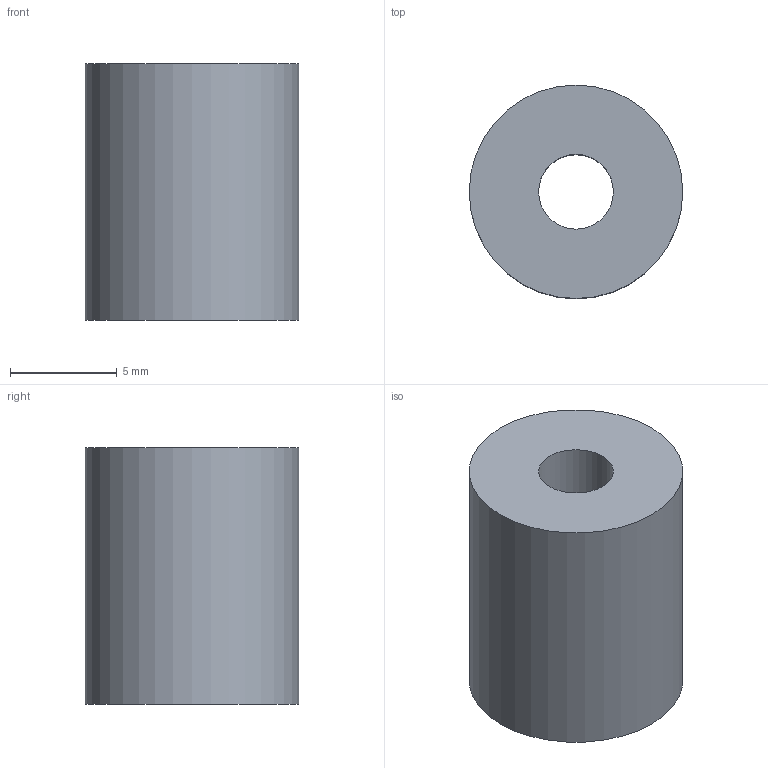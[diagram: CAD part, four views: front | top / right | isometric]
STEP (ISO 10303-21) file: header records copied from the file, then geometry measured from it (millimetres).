
FILE_DESCRIPTION(('Open CASCADE Model'),'2;1');
FILE_NAME('Open CASCADE Shape Model','2026-10-12T22:10:18',('Author'),( 'Open CASCADE'),'Open CASCADE STEP processor 7.9','Open CASCADE 7.9' ,'Unknown');
FILE_SCHEMA(('AUTOMOTIVE_DESIGN { 1 0 10303 214 1 1 1 1 }'));
Length unit declared in the file: millimetre
Products named in the file (1): Open CASCADE STEP translator 7.9 27
Bounding box: 10 x 10 x 12 mm (x, y, z)
Volume: 827 mm3; surface area: 646.8 mm2
Topology: 1 solids, 1 shells, 4 faces, 6 edges, 4 vertices
Faces by surface type: cylinder 2, plane 2
Full cylindrical faces by diameter (mm): 3.5 x1, 10 x1
Entity records: 186 total; most frequent: DIRECTION 32, CARTESIAN_POINT 27, ORIENTED_EDGE 12, PCURVE 12, DEFINITIONAL_REPRESENTATION 12, LINE 10, VECTOR 10, AXIS2_PLACEMENT_3D 9
